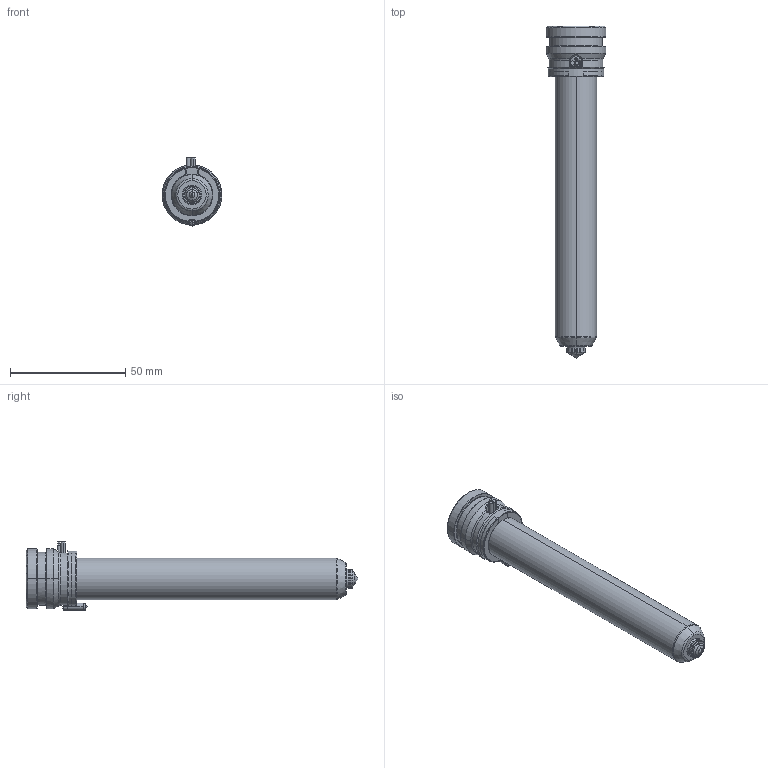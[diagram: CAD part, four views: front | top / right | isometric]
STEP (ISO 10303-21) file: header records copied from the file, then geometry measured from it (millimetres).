
FILE_DESCRIPTION((''),'2;1');
FILE_NAME('TH18126-A-1GLT-PK-JG','2023-12-14T',('umhib'),('Thermoplay S.p.A.'),'PRO/ENGINEER BY PARAMETRIC TECHNOLOGY CORPORATION, 2017170','PRO/ENGINEER BY PARAMETRIC TECHNOLOGY CORPORATION, 2017170','');
FILE_SCHEMA(('CONFIG_CONTROL_DESIGN'));
Length unit declared in the file: millimetre
Products named in the file (1): TH18126-A-1GLT-PK-JG
Bounding box: 26 x 144 x 29.5 mm (x, y, z)
Volume: 29511.9 mm3; surface area: 21689 mm2
Topology: 1 solids, 2 shells, 418 faces, 1085 edges, 675 vertices
Faces by surface type: cylinder 162, plane 90, cone 68, torus 62, bspline 24, sphere 10, extrusion 2
Entity records: 18144 total; most frequent: CARTESIAN_POINT 5864, DIRECTION 2187, ORIENTED_EDGE 2146, EDGE_CURVE 1075, AXIS2_PLACEMENT_3D 886, VERTEX_POINT 675, CIRCLE 493, EDGE_LOOP 443
